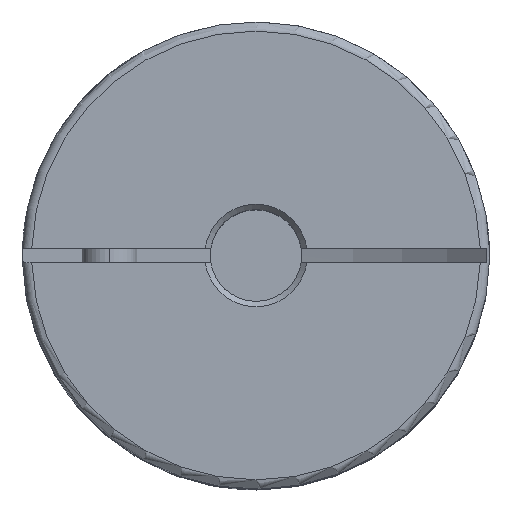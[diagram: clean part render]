
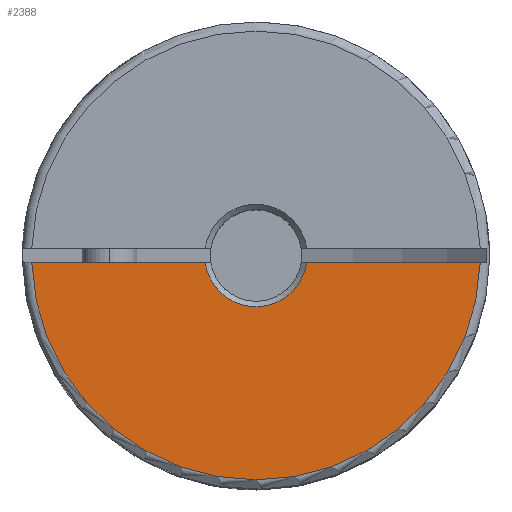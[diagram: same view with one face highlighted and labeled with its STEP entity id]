
A CAD part, top view. The second image highlights one B-rep face of the part: STEP entity #2388.
In plain terms, the highlighted planar face has unit normal (0, 0, 1).
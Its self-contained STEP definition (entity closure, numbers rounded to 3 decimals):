
#1177 = EDGE_CURVE ( 'NONE', #2762, #2763, #7434, .T. ) ;
#1182 = EDGE_CURVE ( 'NONE', #2766, #2763, #2585, .T. ) ;
#1183 = EDGE_CURVE ( 'NONE', #2766, #2767, #7455, .T. ) ;
#1232 = ORIENTED_EDGE ( 'NONE', *, *, #1183, .F. ) ;
#1235 = ORIENTED_EDGE ( 'NONE', *, *, #1177, .F. ) ;
#1236 = ORIENTED_EDGE ( 'NONE', *, *, #1182, .T. ) ;
#1237 = ORIENTED_EDGE ( 'NONE', *, *, #2353, .T. ) ;
#2353 = EDGE_CURVE ( 'NONE', #2762, #2767, #2590, .T. ) ;
#2388 = ADVANCED_FACE ( 'NONE', ( #4495 ), #4662, .F. ) ;
#2585 = CIRCLE ( 'NONE', #4466, 2.8 ) ;
#2590 = CIRCLE ( 'NONE', #4473, 12.25 ) ;
#2762 = VERTEX_POINT ( 'NONE', #4881 ) ;
#2763 = VERTEX_POINT ( 'NONE', #4882 ) ;
#2766 = VERTEX_POINT ( 'NONE', #4885 ) ;
#2767 = VERTEX_POINT ( 'NONE', #4886 ) ;
#3429 = EDGE_LOOP ( 'NONE', ( #1232, #1236, #1235, #1237 ) ) ;
#4466 = AXIS2_PLACEMENT_3D ( 'NONE', #7451, #7452, #7453 ) ;
#4469 = VECTOR ( 'NONE', #7436, 1000. ) ;
#4473 = AXIS2_PLACEMENT_3D ( 'NONE', #7718, #7719, #7720 ) ;
#4474 = AXIS2_PLACEMENT_3D ( 'NONE', #4663, #4664, #4665 ) ;
#4476 = VECTOR ( 'NONE', #7457, 1000. ) ;
#4495 = FACE_OUTER_BOUND ( 'NONE', #3429, .T. ) ;
#4662 = PLANE ( 'NONE',  #4474 ) ;
#4663 = CARTESIAN_POINT ( 'NONE',  ( 0., 0., 16. ) ) ;
#4664 = DIRECTION ( 'NONE',  ( 0., 0., -1. ) ) ;
#4665 = DIRECTION ( 'NONE',  ( -1., 0., 0. ) ) ;
#4881 = CARTESIAN_POINT ( 'NONE',  ( -12.243, -0.4, 16. ) ) ;
#4882 = CARTESIAN_POINT ( 'NONE',  ( -2.771, -0.4, 16. ) ) ;
#4885 = CARTESIAN_POINT ( 'NONE',  ( 2.771, -0.4, 16. ) ) ;
#4886 = CARTESIAN_POINT ( 'NONE',  ( 12.243, -0.4, 16. ) ) ;
#7434 = LINE ( 'NONE', #7435, #4469 ) ;
#7435 = CARTESIAN_POINT ( 'NONE',  ( -12.75, -0.4, 16. ) ) ;
#7436 = DIRECTION ( 'NONE',  ( 1., 0., 0. ) ) ;
#7451 = CARTESIAN_POINT ( 'NONE',  ( 0., 0., 16. ) ) ;
#7452 = DIRECTION ( 'NONE',  ( 0., 0., -1. ) ) ;
#7453 = DIRECTION ( 'NONE',  ( -1., 0., 0. ) ) ;
#7455 = LINE ( 'NONE', #7456, #4476 ) ;
#7456 = CARTESIAN_POINT ( 'NONE',  ( -12.75, -0.4, 16. ) ) ;
#7457 = DIRECTION ( 'NONE',  ( 1., 0., 0. ) ) ;
#7718 = CARTESIAN_POINT ( 'NONE',  ( 0., 0., 16. ) ) ;
#7719 = DIRECTION ( 'NONE',  ( 0., 0., 1. ) ) ;
#7720 = DIRECTION ( 'NONE',  ( -1., 0., 0. ) ) ;
